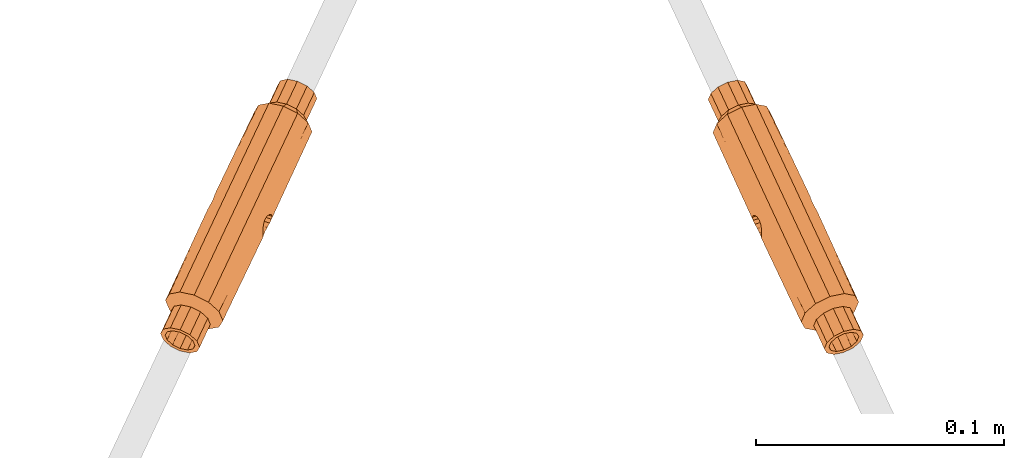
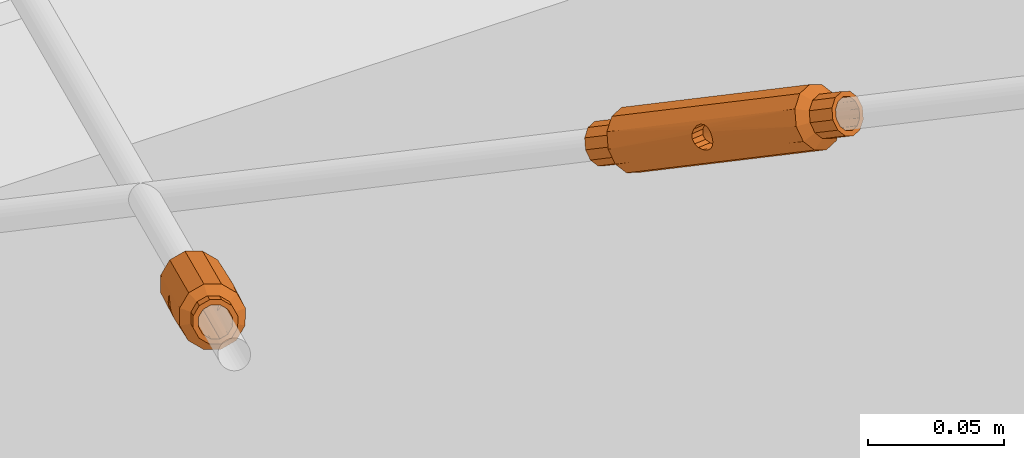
# One storey, part 276 of 288: 2 proxies.
"""IFC2X3 building model written with IfcOpenShell, lengths in millimetres."""

from ifc_helpers import new_model, entity, si_unit, converted_unit, origin_with_axes, place, context, project, spatial, faceted_brep, material, element, save


model = new_model("IFC2X3")

# Units and contexts
model_context = context("Model", 3, precision=1e-09, world=origin_with_axes())
ifc_project = project(units=[si_unit("LENGTHUNIT", "METRE", prefix="MILLI"), si_unit("AREAUNIT", "SQUARE_METRE"), si_unit("VOLUMEUNIT", "CUBIC_METRE"), converted_unit("PLANEANGLEUNIT", "DEGREE", entity("IfcPlaneAngleMeasure", 0.01745329), si_unit("PLANEANGLEUNIT", "RADIAN"), dimensions=[0, 0, 0, 0, 0, 0, 0])], contexts=[model_context])

# Site, building, storey
site_placement = place(None, origin_with_axes())
site = spatial("IfcSite", under=ifc_project, at=site_placement, Name="Remont ?wietlik?w nad MC w NCPP w Opolu", CompositionType="ELEMENT")
building_placement = place(site_placement, origin_with_axes())
building = spatial("IfcBuilding", under=site, at=building_placement, Name="Konstrukcja 1", CompositionType="ELEMENT")
storey_placement = place(building_placement, origin_with_axes())
storey = spatial("IfcBuildingStorey", under=building, at=storey_placement, Name="Default Storey", CompositionType="ELEMENT", Elevation=0.0)

# Proxies
ifc_material = material(Name="Brak")
proxy_1_placement = place(None, origin_with_axes())
element("IfcBuildingElementProxy", 1, at=proxy_1_placement, inside=storey, material=ifc_material, ObjectType="Turnbuckle", context=model_context, shape_type="Brep", body=[
    faceted_brep([(2335.781825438, 572.643609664, 869.294717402), (2337.164834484, 573.101475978, 867.822391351), (2330.654539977, 575.41454774, 866.490971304), (2360.557130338, 625.769710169, 838.956548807), (2338.142908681, 580.174746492, 866.777523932), (2338.431184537, 578.25990546, 866.048710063), (2338.557189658, 575.198425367, 866.276432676), (2338.625475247, 576.197843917, 866.032807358), (2332.108210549, 578.496139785, 864.709927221), (2337.807177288, 573.608496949, 867.19535139), (2331.529212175, 576.710664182, 865.297763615), (2359.754606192, 627.680309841, 841.607287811), (2334.670675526, 572.814065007, 871.031720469), (2329.70138379, 574.784208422, 868.101855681), (2334.232839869, 573.577493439, 872.876677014), (2328.95960146, 574.84299701, 869.931087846), (2313.29460011, 525.579309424, 896.862825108), (2318.927332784, 532.296218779, 888.256932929), (2318.382818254, 534.018123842, 883.236845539), (2324.166955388, 531.130993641, 882.962440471), (2322.84821058, 530.339127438, 888.070922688), (2314.152311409, 537.806327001, 886.338359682), (2328.678256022, 575.545293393, 871.747800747), (2338.013842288, 581.592725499, 868.24417491), (2350.071834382, 613.951031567, 842.329589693), (2332.373945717, 580.449691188, 864.827420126), (2332.449419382, 582.24095591, 865.655346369), (2354.302341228, 610.162828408, 839.22807555), (2338.290184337, 574.315481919, 866.67181813), (2362.756993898, 623.799844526, 837.343761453), (2315.49446367, 523.609443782, 895.250037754), (2318.499960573, 521.108139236, 893.375295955), (2314.566747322, 523.071387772, 893.561891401), (2326.771647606, 529.517245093, 889.85115872), (2322.435741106, 520.283671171, 895.161132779), (2357.903078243, 628.336243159, 841.230995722), (2358.962114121, 630.087753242, 845.125862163), (2361.84587272, 630.622981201, 848.405617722), (2365.781653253, 629.798513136, 850.191454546), (2369.714866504, 627.835264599, 850.0048591), (2372.591611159, 625.259286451, 847.895829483), (2373.641065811, 622.760809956, 844.429478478), (2372.582029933, 621.009299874, 840.534612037), (2369.698271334, 620.474071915, 837.254856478), (2365.762490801, 621.29853998, 835.469019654), (2361.82927755, 623.261788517, 835.6556151), (2358.952532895, 625.837766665, 837.764644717), (2362.769684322, 629.428991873, 847.093763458), (2360.564457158, 629.019699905, 844.585715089), (2365.764745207, 622.298536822, 837.201070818), (2368.774459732, 621.668061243, 838.566710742), (2370.979686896, 622.077353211, 841.074759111), (2371.789537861, 623.416743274, 844.053186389), (2370.987013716, 625.327342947, 846.703925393), (2368.787150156, 627.297208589, 848.316712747), (2365.779398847, 628.798516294, 848.459403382), (2312.492075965, 527.489909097, 899.513564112), (2311.690002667, 525.64736592, 895.670921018), (2316.059610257, 534.864118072, 890.359348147), (2312.608995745, 541.48055714, 891.43593469), (2334.675136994, 574.793057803, 874.459448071), (2328.963939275, 576.76714073, 873.26381374), (2338.147370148, 582.153739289, 870.205251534), (2332.45925844, 583.560525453, 867.115298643), (2354.604380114, 616.620249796, 843.092022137), (2353.554925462, 619.118726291, 846.558373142), (2338.439226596, 581.827157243, 872.227392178), (2325.319499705, 520.818899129, 898.440888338), (2326.378535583, 522.570409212, 902.335754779), (2325.329080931, 525.068885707, 905.802105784), (2322.452336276, 527.644863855, 907.911135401), (2318.519123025, 529.608112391, 908.097730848), (2314.583342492, 530.432580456, 906.311894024), (2311.699583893, 529.897352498, 903.032138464), (2310.640548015, 528.145842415, 899.137272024), (2323.724483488, 525.136942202, 904.610201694), (2324.527007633, 523.22634253, 901.95946269), (2323.717156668, 521.886952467, 898.981035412), (2321.511929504, 521.477660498, 896.472987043), (2318.502214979, 522.108136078, 895.107347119), (2313.30192693, 528.82929916, 902.491991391), (2315.507154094, 529.238591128, 905.00003976), (2318.516868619, 528.608115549, 906.365679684), (2321.524619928, 527.106807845, 906.222989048), (2345.84238723, 569.079495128, 871.339358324), (2345.645741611, 570.096979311, 869.545993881), (2346.134243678, 568.752913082, 873.361498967), (2329.954867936, 529.918540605, 885.588671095), (2360.086478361, 607.275698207, 838.953670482), (2357.481124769, 614.044271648, 840.98299252), (2329.64636208, 530.050794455, 893.120628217), (2329.709357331, 578.321066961, 874.227894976), (2335.789867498, 576.210861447, 875.473399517), (2332.453757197, 584.165099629, 868.988072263), (2348.528518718, 617.625261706, 847.427164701), (2332.381919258, 583.986549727, 870.953459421), (2338.635872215, 580.80967306, 874.02075662), (2332.118616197, 583.111818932, 872.704544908), (2338.568237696, 580.099052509, 874.764596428), (2337.175231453, 577.713305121, 875.810340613), (2330.664945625, 580.030226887, 874.485588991), (2352.162997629, 567.794833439, 870.862205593), (2351.899694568, 566.920102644, 872.61329108), (2346.267771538, 569.313926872, 875.322575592), (2351.827856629, 566.741552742, 874.578678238), (2345.71337613, 570.807599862, 868.802154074), (2315.013446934, 537.354758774, 893.814827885), (2338.301456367, 579.315466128, 875.332073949), (2331.540484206, 581.710648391, 873.958019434), (2337.818225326, 578.509124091, 875.683515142), (2354.61396134, 620.870236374, 850.453239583), (2330.702076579, 531.796811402, 897.003279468), (2346.138705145, 570.731905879, 876.78922657), (2351.822355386, 567.346126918, 876.451451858), (2352.74112962, 569.19600398, 869.608731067), (2334.195689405, 530.705640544, 890.411841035), (2365.874390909, 606.06324517, 841.579901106), (2361.41433802, 612.081023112, 840.796397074), (2345.980157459, 571.591186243, 868.234676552), (2314.166401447, 544.056307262, 897.163679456), (2350.085924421, 620.201011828, 853.154909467), (2335.753095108, 533.281390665, 896.139585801), (2351.832194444, 568.665696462, 877.911404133), (2346.4633885, 572.39752828, 867.883235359), (2316.069161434, 539.100775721, 897.697479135), (2357.497719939, 621.405464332, 853.732995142), (2345.656138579, 574.708808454, 877.533943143), (2345.850429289, 572.646746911, 877.518040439), (2329.655913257, 534.287452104, 900.458759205), (2351.907668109, 570.456961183, 878.739330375), (2353.616668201, 570.876425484, 869.08116151), (2370.115212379, 606.850345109, 846.403071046), (2365.350118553, 611.256555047, 842.582233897), (2347.106382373, 573.193347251, 867.756409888), (2348.491746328, 574.695790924, 868.093350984), (2354.572256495, 572.58558541, 869.338855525), (2349.606476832, 576.113594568, 869.10730243), (2355.317674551, 574.139511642, 870.302936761), (2350.048773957, 577.329158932, 870.690073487), (2345.724424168, 575.708227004, 877.290317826), (2345.991429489, 576.591170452, 876.894932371), (2352.173403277, 572.410512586, 878.856823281), (2346.474436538, 577.298155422, 876.371399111), (2355.603357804, 575.361358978, 871.818949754), (2318.943875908, 539.634325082, 900.966948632), (2318.407222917, 544.843407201, 901.986849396), (2354.32674589, 620.988111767, 857.978079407), (2349.6109383, 578.092587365, 872.535030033), (2348.499788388, 578.263042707, 874.272033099), (2361.433500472, 620.580996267, 855.518831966), (2347.116779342, 577.805176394, 875.74435915), (2352.752401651, 574.195988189, 878.268986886), (2353.627073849, 575.492104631, 877.075779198), (2322.867312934, 538.812442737, 902.747184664), (2326.78819073, 536.855351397, 902.561174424), (2334.209779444, 536.955620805, 901.237160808), (2354.580230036, 576.122443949, 875.464894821), (2355.322012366, 576.063655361, 873.635662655), (2371.672618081, 609.426095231, 852.130815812), (2368.233877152, 611.791783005, 845.861989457), (2324.195135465, 543.630954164, 904.613080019), (2360.114658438, 619.77565873, 860.60431003), (2365.366713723, 618.617747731, 855.33223652), (2370.129302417, 613.100325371, 857.228390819), (2329.979272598, 540.743823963, 904.338674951), (2369.29291303, 613.543293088, 849.756855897), (2365.898795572, 616.888528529, 860.329904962), (2368.243458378, 616.041769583, 853.223206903)], [[[0, 1, 2]], [[3, 4, 5]], [[6, 7, 8]], [[9, 10, 2]], [[1, 9, 2]], [[3, 5, 7]], [[3, 11, 4]], [[12, 0, 13]], [[14, 12, 15]], [[16, 1, 0]], [[17, 18, 19, 20]], [[12, 13, 15]], [[0, 2, 13]], [[21, 2, 10]], [[14, 15, 22]], [[11, 23, 4]], [[7, 5, 8]], [[6, 8, 10]], [[24, 21, 10]], [[5, 4, 25]], [[4, 23, 26]], [[21, 24, 27, 18]], [[28, 6, 10]], [[29, 7, 6]], [[9, 28, 10]], [[30, 9, 1]], [[20, 31, 32, 17]], [[33, 34, 31, 20]], [[29, 3, 7]], [[35, 36, 37, 38, 39, 40, 41, 42, 43, 44, 45, 46], [47, 48, 11, 3, 29, 49, 50, 51, 52, 53, 54, 55]], [[16, 0, 12]], [[56, 12, 14]], [[16, 30, 1]], [[17, 32, 57, 58]], [[18, 17, 58, 21]], [[59, 15, 13]], [[21, 13, 2]], [[60, 14, 61]], [[14, 22, 61]], [[59, 22, 15]], [[11, 62, 23]], [[23, 63, 26]], [[5, 25, 8]], [[24, 10, 8]], [[4, 26, 25]], [[46, 64, 65, 35]], [[48, 66, 62]], [[11, 48, 62]], [[67, 68, 69, 70, 71, 72, 73, 74, 57, 32, 31, 34], [75, 76, 77, 78, 79, 30, 16, 56, 80, 81, 82, 83]], [[77, 84, 85]], [[77, 86, 84]], [[77, 76, 86]], [[20, 19, 87, 33]], [[18, 27, 88, 19]], [[64, 46, 45, 89]], [[78, 77, 85]], [[29, 6, 28]], [[30, 28, 9]], [[34, 33, 90, 67]], [[56, 16, 12]], [[56, 14, 60]], [[21, 59, 13]], [[60, 61, 91]], [[59, 61, 22]], [[92, 60, 91]], [[23, 62, 93]], [[23, 93, 63]], [[94, 26, 63]], [[62, 66, 95]], [[66, 96, 97]], [[24, 8, 25]], [[94, 25, 26]], [[24, 64, 89, 27]], [[47, 98, 96]], [[48, 96, 66]], [[99, 92, 100]], [[80, 60, 92]], [[101, 85, 84]], [[102, 84, 86]], [[76, 103, 86]], [[104, 86, 103]], [[101, 105, 85]], [[78, 85, 105]], [[30, 29, 28]], [[80, 56, 60]], [[58, 57, 74, 106]], [[21, 58, 106, 59]], [[59, 91, 61]], [[96, 98, 97]], [[107, 108, 98]], [[107, 109, 108]], [[109, 99, 100]], [[92, 91, 100]], [[62, 95, 93]], [[94, 63, 93]], [[66, 97, 95]], [[94, 24, 25]], [[64, 24, 94, 65]], [[35, 65, 110, 36]], [[81, 109, 107]], [[47, 107, 98]], [[48, 47, 96]], [[80, 92, 99]], [[81, 99, 109]], [[67, 90, 111, 68]], [[102, 101, 84]], [[104, 102, 86]], [[76, 112, 103]], [[113, 104, 103]], [[101, 114, 105]], [[33, 87, 115, 90]], [[19, 88, 116, 87]], [[27, 89, 117, 88]], [[89, 45, 44, 117]], [[114, 118, 105]], [[78, 105, 118]], [[29, 30, 79, 49]], [[59, 119, 91]], [[98, 108, 97]], [[109, 100, 108]], [[119, 100, 91]], [[94, 93, 95]], [[120, 95, 97]], [[47, 81, 107]], [[81, 80, 99]], [[76, 75, 112]], [[115, 101, 102]], [[121, 102, 104]], [[122, 103, 112]], [[122, 113, 103]], [[121, 104, 113]], [[115, 114, 101]], [[114, 123, 118]], [[50, 78, 118]], [[78, 50, 49, 79]], [[106, 74, 73, 124]], [[59, 106, 124, 119]], [[120, 97, 108]], [[119, 108, 100]], [[120, 94, 95]], [[65, 94, 120, 110]], [[36, 110, 125, 37]], [[81, 47, 55, 82]], [[75, 83, 126]], [[75, 127, 112]], [[75, 126, 127]], [[68, 111, 128, 69]], [[90, 115, 121, 111]], [[121, 115, 102]], [[129, 122, 112]], [[121, 113, 122]], [[114, 130, 123]], [[115, 131, 114]], [[87, 116, 131, 115]], [[88, 117, 132, 116]], [[117, 44, 43, 132]], [[130, 133, 123]], [[50, 118, 123]], [[130, 134, 133]], [[135, 136, 134]], [[137, 138, 136]], [[119, 120, 108]], [[83, 139, 126]], [[83, 140, 139]], [[129, 112, 127]], [[127, 126, 141]], [[54, 142, 140]], [[121, 122, 129]], [[137, 143, 138]], [[135, 137, 136]], [[130, 135, 134]], [[131, 130, 114]], [[50, 123, 133]], [[51, 133, 134]], [[51, 134, 136]], [[52, 136, 138]], [[124, 73, 72, 144]], [[119, 124, 144, 145]], [[120, 119, 145, 146]], [[110, 120, 146, 125]], [[52, 138, 147]], [[53, 147, 148]], [[37, 125, 149, 38]], [[53, 148, 150]], [[54, 150, 142]], [[83, 54, 140]], [[82, 55, 54, 83]], [[126, 139, 141]], [[139, 140, 151]], [[127, 141, 129]], [[140, 142, 151]], [[152, 142, 150]], [[71, 153, 144, 72]], [[70, 154, 153, 71]], [[69, 128, 154, 70]], [[111, 121, 155, 128]], [[155, 121, 129]], [[152, 150, 148]], [[156, 148, 147]], [[157, 147, 138]], [[143, 157, 138]], [[158, 143, 137]], [[158, 137, 135]], [[131, 135, 130]], [[116, 132, 159, 131]], [[132, 43, 42, 159]], [[51, 50, 133]], [[52, 51, 136]], [[53, 52, 147]], [[54, 53, 150]], [[139, 151, 141]], [[155, 129, 141]], [[152, 151, 142]], [[156, 152, 148]], [[157, 156, 147]], [[158, 157, 143]], [[131, 158, 135]], [[145, 144, 153, 160]], [[146, 145, 160, 161]], [[125, 146, 161, 149]], [[38, 149, 162, 39]], [[155, 141, 151]], [[163, 151, 152]], [[154, 164, 160, 153]], [[128, 155, 164, 154]], [[163, 152, 156]], [[158, 156, 157]], [[131, 159, 165, 158]], [[159, 42, 41, 165]], [[163, 155, 151]], [[158, 163, 156]], [[161, 160, 164, 166]], [[149, 161, 166, 162]], [[40, 167, 165, 41]], [[39, 162, 167, 40]], [[155, 163, 166, 164]], [[158, 165, 167, 163]], [[162, 166, 163, 167]]]),
])
proxy_2_placement = place(None, origin_with_axes())
element("IfcBuildingElementProxy", 2, at=proxy_2_placement, inside=storey, material=ifc_material, ObjectType="Turnbuckle", context=model_context, shape_type="Brep", body=[
    faceted_brep([(2558.868406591, 568.598008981, 871.340072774), (2559.069661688, 569.61459382, 869.546709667), (2552.542056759, 567.341932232, 870.862877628), (2533.971139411, 621.708956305, 841.075305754), (2555.136167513, 575.649051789, 869.10799174), (2556.244484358, 574.226223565, 868.094047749), (2558.262433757, 571.918815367, 867.883945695), (2557.62304474, 572.717532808, 867.757115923), (2551.102343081, 570.430063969, 869.081823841), (2559.005245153, 570.325512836, 868.802869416), (2551.970272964, 568.745701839, 869.609399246), (2533.16733135, 623.051993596, 844.053727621), (2558.575063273, 568.272749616, 873.362211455), (2552.801391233, 566.466020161, 872.613964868), (2558.444059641, 568.834361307, 875.323287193), (2552.872408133, 566.287147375, 874.579352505), (2580.779895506, 521.305933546, 898.981897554), (2577.759989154, 528.949955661, 889.85200049), (2574.578643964, 529.365636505, 885.589491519), (2580.37199579, 530.55191331, 882.963299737), (2581.68711329, 529.754093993, 888.071790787), (2570.341391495, 530.171898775, 890.412633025), (2552.880629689, 566.891690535, 876.452126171), (2554.699359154, 576.866603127, 870.690759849), (2534.766736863, 606.478196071, 846.403623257), (2550.154488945, 572.143526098, 869.339511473), (2549.416096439, 573.700806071, 870.303587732), (2539.003989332, 605.671933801, 841.580481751), (2558.742012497, 571.110297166, 868.235390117), (2536.174510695, 621.289699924, 838.567272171), (2582.98326679, 520.886677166, 896.473863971), (2585.993555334, 520.503544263, 893.37619308), (2582.054076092, 519.696876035, 895.162003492), (2585.616796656, 531.693441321, 888.257827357), (2589.935601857, 522.448992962, 893.562814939), (2531.312854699, 622.404436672, 844.43000728), (2532.373569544, 624.898143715, 847.896365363), (2535.261915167, 627.461091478, 850.005414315), (2539.203961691, 629.406540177, 850.192036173), (2543.143440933, 630.213208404, 848.406225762), (2546.024772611, 629.664950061, 845.126489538), (2547.07590623, 627.908670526, 841.231630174), (2546.015191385, 625.414963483, 837.765272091), (2543.126845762, 622.85201572, 835.656223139), (2539.184799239, 620.906567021, 835.469601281), (2535.245319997, 620.099898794, 837.255411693), (2532.363988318, 620.648157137, 840.535147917), (2536.187201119, 626.918847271, 848.317274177), (2533.978466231, 624.958946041, 846.704472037), (2539.187053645, 621.906563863, 837.201652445), (2542.20155981, 623.394259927, 837.344363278), (2544.410294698, 625.354161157, 838.957165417), (2545.221429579, 627.261113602, 841.607909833), (2544.417621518, 628.604150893, 844.5863317), (2542.214250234, 629.023407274, 847.094365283), (2539.201707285, 628.406543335, 848.459985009), (2579.976087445, 522.648970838, 901.96031942), (2579.172744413, 520.245134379, 898.441739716), (2574.88769399, 529.496494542, 893.121450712), (2568.795606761, 532.754662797, 896.140367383), (2558.579524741, 570.251742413, 876.789939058), (2552.876745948, 568.211291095, 877.9120784), (2555.14062898, 577.628044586, 872.535719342), (2549.135929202, 574.923932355, 871.819598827), (2536.670393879, 611.411079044, 845.862554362), (2535.61926026, 613.167358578, 849.757413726), (2556.252526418, 577.793475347, 874.272729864), (2592.82394748, 525.011940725, 895.671863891), (2593.884662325, 527.505647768, 899.138221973), (2592.833528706, 529.261927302, 903.033081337), (2589.952197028, 529.810185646, 906.312817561), (2586.012717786, 529.003517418, 908.098627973), (2582.070671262, 527.058068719, 907.912006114), (2579.182325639, 524.495120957, 905.802957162), (2578.121610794, 522.001413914, 902.33659908), (2591.226377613, 528.201128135, 902.492923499), (2592.030185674, 526.858090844, 899.514501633), (2591.219050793, 524.951138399, 896.863757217), (2589.010315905, 522.991237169, 895.250955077), (2585.99580974, 521.503541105, 895.108244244), (2580.787222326, 524.555923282, 904.611063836), (2582.995957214, 526.515824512, 906.223865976), (2586.01046338, 528.003520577, 906.366576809), (2589.023006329, 528.620384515, 905.000957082), (2568.944990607, 572.116609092, 869.295499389), (2567.564075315, 572.580722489, 867.823164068), (2570.056888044, 572.282039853, 871.032509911), (2586.169123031, 533.41286728, 883.237743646), (2544.797341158, 606.858210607, 838.954289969), (2539.551725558, 610.8628207, 842.582818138), (2588.496083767, 534.248351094, 890.36026185), (2552.809364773, 570.002878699, 878.740004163), (2558.876448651, 572.165260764, 877.518754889), (2549.420434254, 575.624949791, 873.636313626), (2533.220952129, 609.060960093, 852.131357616), (2550.162462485, 575.680384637, 875.465550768), (2557.633441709, 577.329361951, 875.745065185), (2551.112748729, 575.045743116, 877.076441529), (2558.273481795, 576.819442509, 876.372109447), (2559.080058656, 574.226422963, 877.534658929), (2552.552462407, 571.95761138, 878.857495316), (2574.084768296, 574.864341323, 866.491787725), (2575.035054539, 574.229699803, 868.102678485), (2570.498157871, 573.043481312, 872.877469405), (2575.77708277, 574.285134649, 869.931915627), (2566.924035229, 573.090641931, 867.196119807), (2573.839856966, 531.247265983, 897.004094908), (2558.753284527, 576.110281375, 876.895645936), (2551.981544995, 573.745686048, 878.269655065), (2559.016293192, 575.226139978, 877.291033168), (2536.679975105, 615.661065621, 853.223771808), (2589.553471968, 536.734237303, 893.815748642), (2570.061349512, 574.26103265, 874.460237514), (2576.061587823, 574.986152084, 871.748630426), (2573.21597203, 576.164398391, 865.298574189), (2590.416690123, 537.181908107, 886.339286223), (2550.594468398, 609.719164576, 839.228733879), (2543.491204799, 611.669488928, 840.797007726), (2566.444232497, 573.799803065, 866.672583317), (2570.355481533, 536.421879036, 901.237952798), (2534.780826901, 612.728176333, 857.228943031), (2591.976564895, 540.849124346, 891.436871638), (2575.781420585, 576.209278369, 873.264641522), (2566.181223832, 574.683944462, 866.277196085), (2574.897245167, 533.733152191, 900.4595817), (2539.568320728, 618.224013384, 855.332820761), (2567.574472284, 577.192551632, 875.81111333), (2568.953032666, 575.683860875, 875.474181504), (2588.505634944, 538.485008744, 897.698392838), (2575.04302808, 577.766558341, 874.228717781), (2572.645054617, 577.95247306, 864.710733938), (2554.842035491, 613.488205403, 842.330276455), (2547.433251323, 613.614937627, 840.983629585), (2566.117458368, 575.683661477, 866.033570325), (2566.321068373, 577.744823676, 866.049474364), (2572.388152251, 579.90720574, 864.82822509), (2566.617992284, 579.658342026, 866.778290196), (2572.320771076, 581.698793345, 865.656150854), (2566.753457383, 581.075723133, 868.244942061), (2566.935083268, 577.991269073, 875.684283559), (2566.455504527, 578.799787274, 875.332839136), (2574.095173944, 579.480020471, 874.486405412), (2566.192271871, 579.584571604, 874.765359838), (2572.316887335, 583.018393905, 867.116103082), (2577.776532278, 536.288061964, 902.562016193), (2574.603048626, 540.190919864, 904.339495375), (2539.028393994, 616.49721716, 860.330485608), (2566.622453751, 581.637334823, 870.206017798), (2566.329110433, 581.312075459, 872.228156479), (2543.510367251, 620.169462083, 855.519442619), (2566.127855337, 580.29549062, 874.021519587), (2573.22724406, 581.1643826, 873.958830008), (2572.655460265, 582.568152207, 872.705351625), (2581.706215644, 538.227409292, 902.748052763), (2585.63333978, 539.031547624, 900.96784306), (2590.430780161, 543.431888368, 897.164605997), (2572.396125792, 583.444064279, 870.954264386), (2572.325108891, 583.622937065, 868.988876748), (2556.401910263, 617.155421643, 847.42786187), (2550.321596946, 616.177885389, 843.092678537), (2580.400175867, 543.051873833, 904.613939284), (2544.825521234, 619.358171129, 860.604929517), (2547.449846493, 620.976130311, 853.733632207), (2554.856125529, 619.738185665, 853.155596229), (2586.193527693, 544.238150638, 901.987747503), (2551.382311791, 618.671592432, 846.559036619), (2550.618873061, 620.544447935, 857.978737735), (2550.331178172, 620.427871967, 850.453895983)], [[[0, 1, 2]], [[3, 4, 5]], [[6, 7, 8]], [[9, 10, 2]], [[1, 9, 2]], [[3, 5, 7]], [[3, 11, 4]], [[12, 0, 13]], [[14, 12, 15]], [[16, 1, 0]], [[17, 18, 19, 20]], [[12, 13, 15]], [[0, 2, 13]], [[21, 2, 10]], [[14, 15, 22]], [[11, 23, 4]], [[7, 5, 8]], [[6, 8, 10]], [[24, 21, 10]], [[5, 4, 25]], [[4, 23, 26]], [[21, 24, 27, 18]], [[28, 6, 10]], [[29, 7, 6]], [[9, 28, 10]], [[30, 9, 1]], [[20, 31, 32, 17]], [[33, 34, 31, 20]], [[29, 3, 7]], [[35, 36, 37, 38, 39, 40, 41, 42, 43, 44, 45, 46], [47, 48, 11, 3, 29, 49, 50, 51, 52, 53, 54, 55]], [[16, 0, 12]], [[56, 12, 14]], [[16, 30, 1]], [[17, 32, 57, 58]], [[18, 17, 58, 21]], [[59, 15, 13]], [[21, 13, 2]], [[60, 14, 61]], [[14, 22, 61]], [[59, 22, 15]], [[11, 62, 23]], [[23, 63, 26]], [[5, 25, 8]], [[24, 10, 8]], [[4, 26, 25]], [[46, 64, 65, 35]], [[48, 66, 62]], [[11, 48, 62]], [[67, 68, 69, 70, 71, 72, 73, 74, 57, 32, 31, 34], [75, 76, 77, 78, 79, 30, 16, 56, 80, 81, 82, 83]], [[77, 84, 85]], [[77, 86, 84]], [[77, 76, 86]], [[20, 19, 87, 33]], [[18, 27, 88, 19]], [[64, 46, 45, 89]], [[78, 77, 85]], [[29, 6, 28]], [[30, 28, 9]], [[34, 33, 90, 67]], [[56, 16, 12]], [[56, 14, 60]], [[21, 59, 13]], [[60, 61, 91]], [[59, 61, 22]], [[92, 60, 91]], [[23, 62, 93]], [[23, 93, 63]], [[94, 26, 63]], [[62, 66, 95]], [[66, 96, 97]], [[24, 8, 25]], [[94, 25, 26]], [[24, 64, 89, 27]], [[47, 98, 96]], [[48, 96, 66]], [[99, 92, 100]], [[80, 60, 92]], [[101, 85, 84]], [[102, 84, 86]], [[76, 103, 86]], [[104, 86, 103]], [[101, 105, 85]], [[78, 85, 105]], [[30, 29, 28]], [[80, 56, 60]], [[58, 57, 74, 106]], [[21, 58, 106, 59]], [[59, 91, 61]], [[96, 98, 97]], [[107, 108, 98]], [[107, 109, 108]], [[109, 99, 100]], [[92, 91, 100]], [[62, 95, 93]], [[94, 63, 93]], [[66, 97, 95]], [[94, 24, 25]], [[64, 24, 94, 65]], [[35, 65, 110, 36]], [[81, 109, 107]], [[47, 107, 98]], [[48, 47, 96]], [[80, 92, 99]], [[81, 99, 109]], [[67, 90, 111, 68]], [[102, 101, 84]], [[104, 102, 86]], [[76, 112, 103]], [[113, 104, 103]], [[101, 114, 105]], [[33, 87, 115, 90]], [[19, 88, 116, 87]], [[27, 89, 117, 88]], [[89, 45, 44, 117]], [[114, 118, 105]], [[78, 105, 118]], [[29, 30, 79, 49]], [[59, 119, 91]], [[98, 108, 97]], [[109, 100, 108]], [[119, 100, 91]], [[94, 93, 95]], [[120, 95, 97]], [[47, 81, 107]], [[81, 80, 99]], [[76, 75, 112]], [[115, 101, 102]], [[121, 102, 104]], [[122, 103, 112]], [[122, 113, 103]], [[121, 104, 113]], [[115, 114, 101]], [[114, 123, 118]], [[50, 78, 118]], [[78, 50, 49, 79]], [[106, 74, 73, 124]], [[59, 106, 124, 119]], [[120, 97, 108]], [[119, 108, 100]], [[120, 94, 95]], [[65, 94, 120, 110]], [[36, 110, 125, 37]], [[81, 47, 55, 82]], [[75, 83, 126]], [[75, 127, 112]], [[75, 126, 127]], [[68, 111, 128, 69]], [[90, 115, 121, 111]], [[121, 115, 102]], [[129, 122, 112]], [[121, 113, 122]], [[114, 130, 123]], [[115, 131, 114]], [[87, 116, 131, 115]], [[88, 117, 132, 116]], [[117, 44, 43, 132]], [[130, 133, 123]], [[50, 118, 123]], [[130, 134, 133]], [[135, 136, 134]], [[137, 138, 136]], [[119, 120, 108]], [[83, 139, 126]], [[83, 140, 139]], [[129, 112, 127]], [[127, 126, 141]], [[54, 142, 140]], [[121, 122, 129]], [[137, 143, 138]], [[135, 137, 136]], [[130, 135, 134]], [[131, 130, 114]], [[50, 123, 133]], [[51, 133, 134]], [[51, 134, 136]], [[52, 136, 138]], [[124, 73, 72, 144]], [[119, 124, 144, 145]], [[120, 119, 145, 146]], [[110, 120, 146, 125]], [[52, 138, 147]], [[53, 147, 148]], [[37, 125, 149, 38]], [[53, 148, 150]], [[54, 150, 142]], [[83, 54, 140]], [[82, 55, 54, 83]], [[126, 139, 141]], [[139, 140, 151]], [[127, 141, 129]], [[140, 142, 151]], [[152, 142, 150]], [[71, 153, 144, 72]], [[70, 154, 153, 71]], [[69, 128, 154, 70]], [[111, 121, 155, 128]], [[155, 121, 129]], [[152, 150, 148]], [[156, 148, 147]], [[157, 147, 138]], [[143, 157, 138]], [[158, 143, 137]], [[158, 137, 135]], [[131, 135, 130]], [[116, 132, 159, 131]], [[132, 43, 42, 159]], [[51, 50, 133]], [[52, 51, 136]], [[53, 52, 147]], [[54, 53, 150]], [[139, 151, 141]], [[155, 129, 141]], [[152, 151, 142]], [[156, 152, 148]], [[157, 156, 147]], [[158, 157, 143]], [[131, 158, 135]], [[145, 144, 153, 160]], [[146, 145, 160, 161]], [[125, 146, 161, 149]], [[38, 149, 162, 39]], [[155, 141, 151]], [[163, 151, 152]], [[154, 164, 160, 153]], [[128, 155, 164, 154]], [[163, 152, 156]], [[158, 156, 157]], [[131, 159, 165, 158]], [[159, 42, 41, 165]], [[163, 155, 151]], [[158, 163, 156]], [[161, 160, 164, 166]], [[149, 161, 166, 162]], [[40, 167, 165, 41]], [[39, 162, 167, 40]], [[155, 163, 166, 164]], [[158, 165, 167, 163]], [[162, 166, 163, 167]]]),
])

save(model, "model.ifc")
